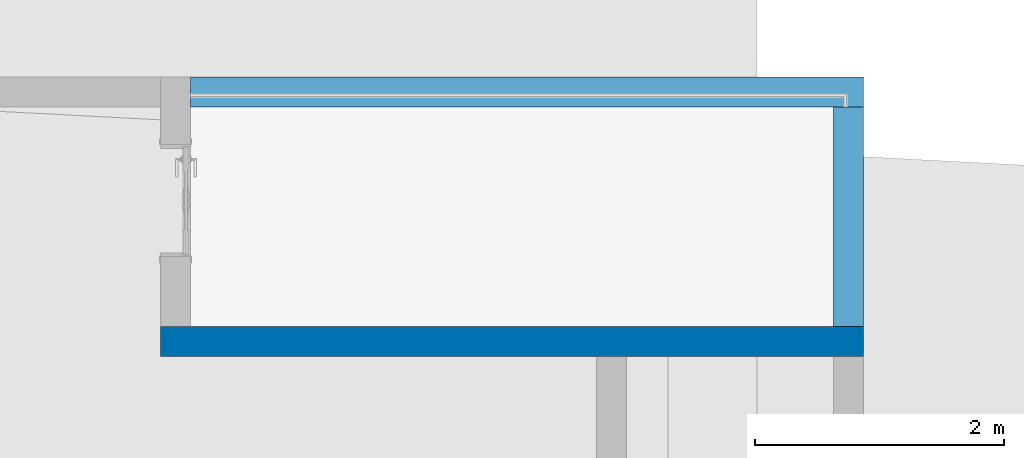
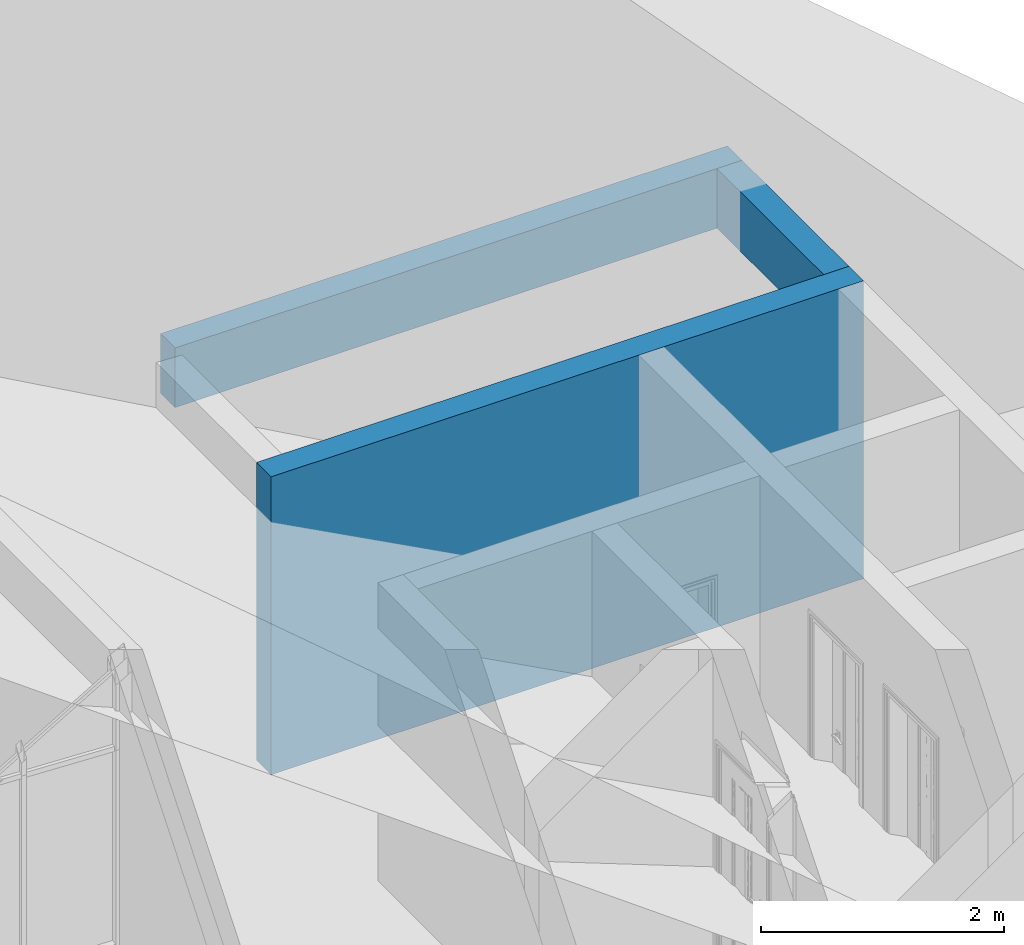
# One storey, part 68 of 82: 3 walls.
"""IFC2X3 building model written with IfcOpenShell, lengths in millimetres."""

from ifc_helpers import new_model, entity, si_unit, converted_unit, derived_unit, direction, frame, frame_2d, origin, place, context, subcontext, project, spatial, polyline, rectangle, extrude, clip, bounded_halfspace, material, layer, layer_set, layer_usage, type_object, element, save


model = new_model("IFC2X3")

# Units and contexts
model_context = context("Model", 3, precision=0.01, world=origin(), true_north=direction((6.12303176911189e-17, 1.0)))
body_context = subcontext(model_context, "Body", "Model", "MODEL_VIEW")
ifc_project = project(units=[si_unit("LENGTHUNIT", "METRE", prefix="MILLI"), si_unit("AREAUNIT", "SQUARE_METRE"), si_unit("VOLUMEUNIT", "CUBIC_METRE"), converted_unit("PLANEANGLEUNIT", "DEGREE", entity("IfcRatioMeasure", 0.0174532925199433), si_unit("PLANEANGLEUNIT", "RADIAN"), dimensions=[0, 0, 0, 0, 0, 0, 0]), si_unit("MASSUNIT", "GRAM", prefix="KILO"), derived_unit("MASSDENSITYUNIT", [(si_unit("MASSUNIT", "GRAM", prefix="KILO"), 1), (si_unit("LENGTHUNIT", "METRE"), -3)]), si_unit("TIMEUNIT", "SECOND"), si_unit("FREQUENCYUNIT", "HERTZ"), si_unit("THERMODYNAMICTEMPERATUREUNIT", "DEGREE_CELSIUS"), derived_unit("THERMALTRANSMITTANCEUNIT", [(si_unit("MASSUNIT", "GRAM", prefix="KILO"), 1), (si_unit("THERMODYNAMICTEMPERATUREUNIT", "KELVIN"), -1), (si_unit("TIMEUNIT", "SECOND"), -3)]), derived_unit("VOLUMETRICFLOWRATEUNIT", [(si_unit("LENGTHUNIT", "METRE"), 3), (si_unit("TIMEUNIT", "SECOND"), -1)]), si_unit("ELECTRICCURRENTUNIT", "AMPERE"), si_unit("ELECTRICVOLTAGEUNIT", "VOLT"), si_unit("POWERUNIT", "WATT"), si_unit("FORCEUNIT", "NEWTON", prefix="KILO"), si_unit("ILLUMINANCEUNIT", "LUX"), si_unit("LUMINOUSFLUXUNIT", "LUMEN"), si_unit("LUMINOUSINTENSITYUNIT", "CANDELA"), derived_unit("USERDEFINED", [(si_unit("MASSUNIT", "GRAM", prefix="KILO"), -1), (si_unit("LENGTHUNIT", "METRE"), -2), (si_unit("TIMEUNIT", "SECOND"), 3), (si_unit("LUMINOUSFLUXUNIT", "LUMEN"), 1)]), derived_unit("LINEARVELOCITYUNIT", [(si_unit("LENGTHUNIT", "METRE"), 1), (si_unit("TIMEUNIT", "SECOND"), -1)]), si_unit("PRESSUREUNIT", "PASCAL"), derived_unit("USERDEFINED", [(si_unit("LENGTHUNIT", "METRE"), -2), (si_unit("MASSUNIT", "GRAM", prefix="KILO"), 1), (si_unit("TIMEUNIT", "SECOND"), -2)])], contexts=[model_context])

# Site, building, storey
site_placement = place(None, origin())
site = spatial("IfcSite", under=ifc_project, at=site_placement, Name="表面", CompositionType="ELEMENT")
building_placement = place(site_placement, origin())
building = spatial("IfcBuilding", under=site, at=building_placement, CompositionType="ELEMENT")
storey_placement = place(building_placement, origin())
storey = spatial("IfcBuildingStorey", under=building, at=storey_placement, Name="1F", CompositionType="ELEMENT", Elevation=0.0)

# Walls
ifc_material_1 = material(Name="白色涂料")
ifc_layer_1 = layer(ifc_material_1, 10.0)
ifc_material_2 = material(Name="默认墙")
ifc_layer_2 = layer(ifc_material_2, 220.0)
ifc_layer_3 = layer(ifc_material_1, 10.0)
ifc_layer_set = layer_set([ifc_layer_1, ifc_layer_2, ifc_layer_3], Name="基本墙:粉刷墙240")
ifc_layer_usage_1 = layer_usage(ifc_layer_set, "AXIS2", "NEGATIVE", 120.0)
wall_type = type_object("IfcWallType", Name="基本墙:粉刷墙240", PredefinedType="STANDARD", material=ifc_layer_set)
wall_1_placement = place(storey_placement, frame((-6510.24991264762, 3683.131573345, 0.0), z_axis=(0.0, 0.0, 1.0), x_axis=(-1.0, 0.0, 0.0)))
element("IfcWallStandardCase", 1, at=wall_1_placement, inside=storey, type_object=wall_type, material=ifc_layer_usage_1, Name="基本墙:粉刷墙240", ObjectType="基本墙:粉刷墙240", context=body_context, shape_type="Clipping", body=[
    clip(extrude(rectangle(XDim=5639.99999999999, YDim=240.0, at=frame_2d((2819.99999999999, 1.35003119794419e-13), x_axis=(-1.0, 0.0))), origin(), (0.0, 0.0, 1.0), 3000.00000000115), bounded_halfspace(frame((0.0, -120.0, 3000.0), z_axis=(0.0, 0.0, -1.0), x_axis=(0.0, 1.0, 0.0)), True, frame((0.0, -120.0, 3000.0)), polyline([(0.0, 0.0), (240.0, 0.0), (5400.0, 0.0), (5640.0, 0.0), (5640.0, 240.0), (2140.0, 240.0), (1900.0, 240.0), (240.0, 240.0), (0.0, 240.0), (0.0, 0.0)]))),
])
ifc_layer_usage_2 = layer_usage(ifc_layer_set, "AXIS2", "NEGATIVE", 120.0)
wall_2_placement = place(storey_placement, frame((-11910.2499126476, 5683.13157334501, 2400.0)))
element("IfcWallStandardCase", 2, at=wall_2_placement, inside=storey, type_object=wall_type, material=ifc_layer_usage_2, Name="基本墙:粉刷墙240", ObjectType="基本墙:粉刷墙240", context=body_context, shape_type="SweptSolid", body=[
    extrude(rectangle(XDim=5400.00000000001, YDim=240.0, at=frame_2d((2700.00000000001, 0.0), x_axis=(-1.0, 0.0))), origin(), (0.0, 0.0, 1.0), 600.0),
])
ifc_layer_usage_3 = layer_usage(ifc_layer_set, "AXIS2", "NEGATIVE", 120.0)
wall_3_placement = place(storey_placement, frame((-6630.24991264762, 5563.131573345, 2400.0), z_axis=(0.0, 0.0, 1.0), x_axis=(0.0, -1.0, 0.0)))
element("IfcWallStandardCase", 3, at=wall_3_placement, inside=storey, type_object=wall_type, material=ifc_layer_usage_3, Name="基本墙:粉刷墙240", ObjectType="基本墙:粉刷墙240", context=body_context, shape_type="SweptSolid", body=[
    extrude(rectangle(XDim=1760.0, YDim=240.0, at=frame_2d((880.0, -1.91846538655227e-13), x_axis=(-1.0, 0.0))), origin(), (0.0, 0.0, 1.0), 600.0),
])

save(model, "model.ifc")
